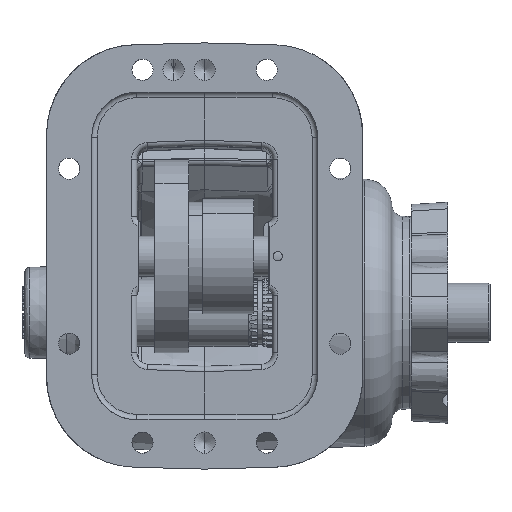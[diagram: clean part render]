
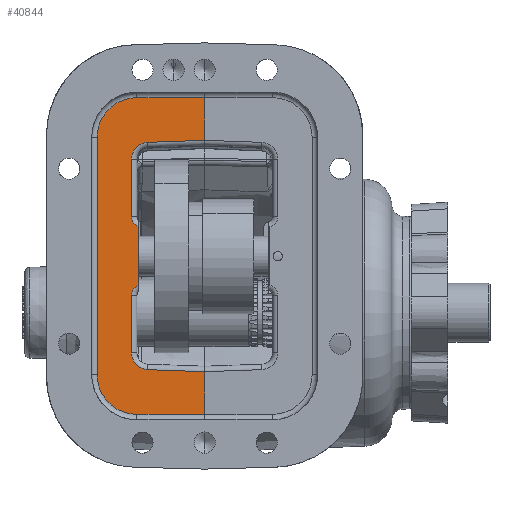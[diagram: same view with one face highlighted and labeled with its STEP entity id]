
A CAD part, front view. The second image highlights one B-rep face of the part: STEP entity #40844.
In plain terms, the highlighted planar face has unit normal (0, -1, 0).
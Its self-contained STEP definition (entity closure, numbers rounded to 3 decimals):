
#16385 = AXIS2_PLACEMENT_3D ( 'NONE', #76022, #76024, #76026 ) ;
#16422 = AXIS2_PLACEMENT_3D ( 'NONE', #76190, #76193, #76196 ) ;
#16517 = AXIS2_PLACEMENT_3D ( 'NONE', #82157, #82159, #82161 ) ;
#16538 = AXIS2_PLACEMENT_3D ( 'NONE', #82243, #82245, #82247 ) ;
#21581 = CARTESIAN_POINT ( 'NONE',  ( -10.39, -133.047, -95.578 ) ) ;
#21587 = CARTESIAN_POINT ( 'NONE',  ( -47.728, -133.047, -95.578 ) ) ;
#21588 = DIRECTION ( 'NONE',  ( 0., 0., -1. ) ) ;
#21589 = CARTESIAN_POINT ( 'NONE',  ( -10.39, -133.047, -95.578 ) ) ;
#21591 = DIRECTION ( 'NONE',  ( 0., 0., 1. ) ) ;
#21592 = DIRECTION ( 'NONE',  ( 0., 0., 1. ) ) ;
#23734 = CARTESIAN_POINT ( 'NONE',  ( -45.442, -133.047, 44.059 ) ) ;
#23735 = DIRECTION ( 'NONE',  ( 0., -1., 0. ) ) ;
#23736 = DIRECTION ( 'NONE',  ( 0., 0., -1. ) ) ;
#23814 = CARTESIAN_POINT ( 'NONE',  ( -45.442, -133.047, -0.265 ) ) ;
#23815 = DIRECTION ( 'NONE',  ( 0., -1., 0. ) ) ;
#23816 = DIRECTION ( 'NONE',  ( 0., 0., -1. ) ) ;
#29285 = CIRCLE ( 'NONE', #44847, 6.096 ) ;
#29300 = CIRCLE ( 'NONE', #44871, 6.096 ) ;
#40844 = ADVANCED_FACE ( 'NONE', ( #136696 ), #118586, .F. ) ;
#44847 = AXIS2_PLACEMENT_3D ( 'NONE', #23734, #23735, #23736 ) ;
#44871 = AXIS2_PLACEMENT_3D ( 'NONE', #23814, #23815, #23816 ) ;
#55794 = CARTESIAN_POINT ( 'NONE',  ( -47.728, -133.047, 38.408 ) ) ;
#55814 = CARTESIAN_POINT ( 'NONE',  ( -47.728, -133.047, 5.386 ) ) ;
#70685 = LINE ( 'NONE', #75969, #70694 ) ;
#70694 = VECTOR ( 'NONE', #75972, 1000. ) ;
#70708 = CIRCLE ( 'NONE', #16385, 9.398 ) ;
#70732 = LINE ( 'NONE', #76057, #70740 ) ;
#70740 = VECTOR ( 'NONE', #76060, 1000. ) ;
#70770 = LINE ( 'NONE', #76102, #70776 ) ;
#70776 = VECTOR ( 'NONE', #76091, 1000. ) ;
#70790 = CIRCLE ( 'NONE', #16422, 9.398 ) ;
#70803 = LINE ( 'NONE', #76228, #70812 ) ;
#70812 = VECTOR ( 'NONE', #76233, 1000. ) ;
#70923 = CIRCLE ( 'NONE', #16517, 22.352 ) ;
#70953 = LINE ( 'NONE', #82200, #70975 ) ;
#70956 = LINE ( 'NONE', #82191, #70965 ) ;
#70965 = VECTOR ( 'NONE', #82194, 1000. ) ;
#70975 = VECTOR ( 'NONE', #82163, 1000. ) ;
#70984 = CIRCLE ( 'NONE', #16538, 22.352 ) ;
#71010 = LINE ( 'NONE', #82284, #71026 ) ;
#71026 = VECTOR ( 'NONE', #82274, 1000. ) ;
#71173 = VERTEX_POINT ( 'NONE', #83320 ) ;
#71175 = VERTEX_POINT ( 'NONE', #83321 ) ;
#71177 = VERTEX_POINT ( 'NONE', #83322 ) ;
#71178 = VERTEX_POINT ( 'NONE', #83323 ) ;
#71186 = VERTEX_POINT ( 'NONE', #83326 ) ;
#71197 = VERTEX_POINT ( 'NONE', #83332 ) ;
#71206 = VERTEX_POINT ( 'NONE', #83338 ) ;
#71215 = VERTEX_POINT ( 'NONE', #83343 ) ;
#71243 = VERTEX_POINT ( 'NONE', #83359 ) ;
#71276 = VERTEX_POINT ( 'NONE', #83377 ) ;
#71278 = VERTEX_POINT ( 'NONE', #83378 ) ;
#71283 = VERTEX_POINT ( 'NONE', #83381 ) ;
#71290 = VERTEX_POINT ( 'NONE', #83385 ) ;
#71297 = VERTEX_POINT ( 'NONE', #83389 ) ;
#71731 = VERTEX_POINT ( 'NONE', #55794 ) ;
#71748 = VERTEX_POINT ( 'NONE', #55814 ) ;
#75969 = CARTESIAN_POINT ( 'NONE',  ( -42.468, -133.047, 85.803 ) ) ;
#75972 = DIRECTION ( 'NONE',  ( -0.999, 0., -0.035 ) ) ;
#76022 = CARTESIAN_POINT ( 'NONE',  ( -42.14, -133.047, 76.41 ) ) ;
#76024 = DIRECTION ( 'NONE',  ( 0., -1., 0. ) ) ;
#76026 = DIRECTION ( 'NONE',  ( 0., 0., -1. ) ) ;
#76057 = CARTESIAN_POINT ( 'NONE',  ( -51.538, -133.047, 44.059 ) ) ;
#76060 = DIRECTION ( 'NONE',  ( 0., 0., -1. ) ) ;
#76091 = DIRECTION ( 'NONE',  ( 0., 0., -1. ) ) ;
#76102 = CARTESIAN_POINT ( 'NONE',  ( -51.538, -133.047, -32.617 ) ) ;
#76190 = CARTESIAN_POINT ( 'NONE',  ( -42.14, -133.047, -32.617 ) ) ;
#76193 = DIRECTION ( 'NONE',  ( 0., -1., 0. ) ) ;
#76196 = DIRECTION ( 'NONE',  ( 0., 0., -1. ) ) ;
#76228 = CARTESIAN_POINT ( 'NONE',  ( -10.497, -133.047, -43.125 ) ) ;
#76233 = DIRECTION ( 'NONE',  ( 0.999, 0., -0.035 ) ) ;
#80640 = LINE ( 'NONE', #21581, #80650 ) ;
#80642 = LINE ( 'NONE', #21587, #80646 ) ;
#80645 = LINE ( 'NONE', #21589, #80648 ) ;
#80646 = VECTOR ( 'NONE', #21588, 1000. ) ;
#80648 = VECTOR ( 'NONE', #21591, 1000. ) ;
#80650 = VECTOR ( 'NONE', #21592, 1000. ) ;
#82157 = CARTESIAN_POINT ( 'NONE',  ( -48.49, -133.047, 88.572 ) ) ;
#82159 = DIRECTION ( 'NONE',  ( 0., 1., 0. ) ) ;
#82161 = DIRECTION ( 'NONE',  ( 0., 0., -1. ) ) ;
#82163 = DIRECTION ( 'NONE',  ( 0., 0., 1. ) ) ;
#82191 = CARTESIAN_POINT ( 'NONE',  ( -10.39, -133.047, 110.924 ) ) ;
#82194 = DIRECTION ( 'NONE',  ( 1., 0., 0. ) ) ;
#82200 = CARTESIAN_POINT ( 'NONE',  ( -70.842, -133.047, 88.572 ) ) ;
#82243 = CARTESIAN_POINT ( 'NONE',  ( -48.49, -133.047, -44.778 ) ) ;
#82245 = DIRECTION ( 'NONE',  ( 0., 1., 0. ) ) ;
#82247 = DIRECTION ( 'NONE',  ( 0., 0., -1. ) ) ;
#82274 = DIRECTION ( 'NONE',  ( -1., 0., 0. ) ) ;
#82284 = CARTESIAN_POINT ( 'NONE',  ( -48.49, -133.047, -67.13 ) ) ;
#83320 = CARTESIAN_POINT ( 'NONE',  ( -10.39, -133.047, 86.923 ) ) ;
#83321 = CARTESIAN_POINT ( 'NONE',  ( -42.468, -133.047, 85.803 ) ) ;
#83322 = CARTESIAN_POINT ( 'NONE',  ( -51.538, -133.047, 76.41 ) ) ;
#83323 = CARTESIAN_POINT ( 'NONE',  ( -51.538, -133.047, 44.059 ) ) ;
#83326 = CARTESIAN_POINT ( 'NONE',  ( -42.468, -133.047, -42.009 ) ) ;
#83332 = CARTESIAN_POINT ( 'NONE',  ( -51.538, -133.047, -32.617 ) ) ;
#83338 = CARTESIAN_POINT ( 'NONE',  ( -51.538, -133.047, -0.265 ) ) ;
#83343 = CARTESIAN_POINT ( 'NONE',  ( -10.39, -133.047, -43.129 ) ) ;
#83359 = CARTESIAN_POINT ( 'NONE',  ( -70.842, -133.047, 88.572 ) ) ;
#83377 = CARTESIAN_POINT ( 'NONE',  ( -48.49, -133.047, 110.924 ) ) ;
#83378 = CARTESIAN_POINT ( 'NONE',  ( -10.39, -133.047, 110.924 ) ) ;
#83381 = CARTESIAN_POINT ( 'NONE',  ( -70.842, -133.047, -44.778 ) ) ;
#83385 = CARTESIAN_POINT ( 'NONE',  ( -48.49, -133.047, -67.13 ) ) ;
#83389 = CARTESIAN_POINT ( 'NONE',  ( -10.39, -133.047, -67.13 ) ) ;
#106515 = EDGE_CURVE ( 'NONE', #71178, #71731, #29285, .T. ) ;
#106567 = EDGE_CURVE ( 'NONE', #71748, #71206, #29300, .T. ) ;
#106616 = EDGE_CURVE ( 'NONE', #71731, #71748, #80642, .T. ) ;
#106619 = EDGE_CURVE ( 'NONE', #71173, #71278, #80645, .T. ) ;
#106622 = EDGE_CURVE ( 'NONE', #71297, #71215, #80640, .T. ) ;
#118583 = CARTESIAN_POINT ( 'NONE',  ( -99.29, -133.047, -95.578 ) ) ;
#118586 = PLANE ( 'NONE',  #127820 ) ;
#118671 = DIRECTION ( 'NONE',  ( 0., 1., 0. ) ) ;
#118674 = DIRECTION ( 'NONE',  ( 0., 0., -1. ) ) ;
#119674 = EDGE_LOOP ( 'NONE', ( #132536, #132555, #132637, #132644, #132775, #132454, #131814, #132220, #132334, #133073, #133004, #132988, #132966, #132904, #132819, #132754 ) ) ;
#127075 = EDGE_CURVE ( 'NONE', #71173, #71175, #70685, .T. ) ;
#127087 = EDGE_CURVE ( 'NONE', #71175, #71177, #70708, .T. ) ;
#127096 = EDGE_CURVE ( 'NONE', #71177, #71178, #70732, .T. ) ;
#127109 = EDGE_CURVE ( 'NONE', #71206, #71197, #70770, .T. ) ;
#127121 = EDGE_CURVE ( 'NONE', #71197, #71186, #70790, .T. ) ;
#127129 = EDGE_CURVE ( 'NONE', #71186, #71215, #70803, .T. ) ;
#127194 = EDGE_CURVE ( 'NONE', #71243, #71276, #70923, .T. ) ;
#127199 = EDGE_CURVE ( 'NONE', #71276, #71278, #70956, .T. ) ;
#127201 = EDGE_CURVE ( 'NONE', #71283, #71243, #70953, .T. ) ;
#127207 = EDGE_CURVE ( 'NONE', #71290, #71283, #70984, .T. ) ;
#127213 = EDGE_CURVE ( 'NONE', #71297, #71290, #71010, .T. ) ;
#127820 = AXIS2_PLACEMENT_3D ( 'NONE', #118583, #118671, #118674 ) ;
#131814 = ORIENTED_EDGE ( 'NONE', *, *, #127199, .F. ) ;
#132220 = ORIENTED_EDGE ( 'NONE', *, *, #127194, .F. ) ;
#132334 = ORIENTED_EDGE ( 'NONE', *, *, #127201, .F. ) ;
#132454 = ORIENTED_EDGE ( 'NONE', *, *, #106619, .T. ) ;
#132536 = ORIENTED_EDGE ( 'NONE', *, *, #106616, .F. ) ;
#132555 = ORIENTED_EDGE ( 'NONE', *, *, #106515, .F. ) ;
#132637 = ORIENTED_EDGE ( 'NONE', *, *, #127096, .F. ) ;
#132644 = ORIENTED_EDGE ( 'NONE', *, *, #127087, .F. ) ;
#132754 = ORIENTED_EDGE ( 'NONE', *, *, #106567, .F. ) ;
#132775 = ORIENTED_EDGE ( 'NONE', *, *, #127075, .F. ) ;
#132819 = ORIENTED_EDGE ( 'NONE', *, *, #127109, .F. ) ;
#132904 = ORIENTED_EDGE ( 'NONE', *, *, #127121, .F. ) ;
#132966 = ORIENTED_EDGE ( 'NONE', *, *, #127129, .F. ) ;
#132988 = ORIENTED_EDGE ( 'NONE', *, *, #106622, .T. ) ;
#133004 = ORIENTED_EDGE ( 'NONE', *, *, #127213, .F. ) ;
#133073 = ORIENTED_EDGE ( 'NONE', *, *, #127207, .F. ) ;
#136696 = FACE_OUTER_BOUND ( 'NONE', #119674, .T. ) ;
